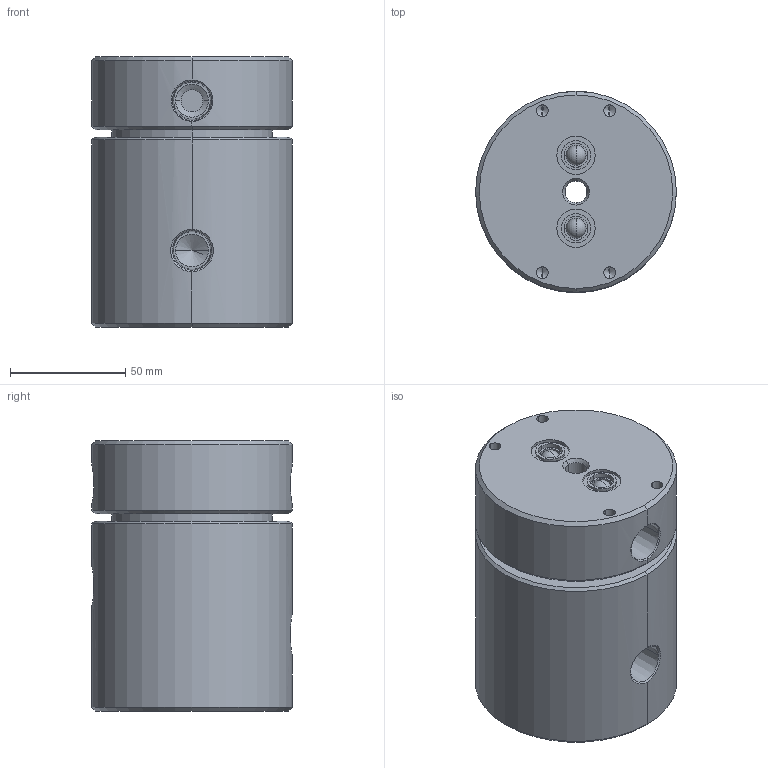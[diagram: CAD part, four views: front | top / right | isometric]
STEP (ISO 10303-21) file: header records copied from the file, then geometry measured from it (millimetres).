
FILE_DESCRIPTION (( 'STEP AP214' ), '1' );
FILE_NAME ('LT(M)-2321.STEP', '2013-01-03T17:20:09', ( '' ), ( '' ), 'SwSTEP 2.0', 'SolidWorks 2011', '' );
FILE_SCHEMA (( 'AUTOMOTIVE_DESIGN' ));
Length unit declared in the file: inch
Products named in the file (1): LT(M)-2321
Bounding box: 87.3 x 87.3 x 117.45 mm (x, y, z)
Volume: 653686.7 mm3; surface area: 60725.9 mm2
Topology: 1 solids, 1 shells, 179 faces, 422 edges, 249 vertices
Faces by surface type: cylinder 82, cone 52, plane 31, bspline 8, sphere 4, torus 2
Entity records: 6961 total; most frequent: CARTESIAN_POINT 2053, DIRECTION 888, ORIENTED_EDGE 776, EDGE_CURVE 388, AXIS2_PLACEMENT_3D 368, VERTEX_POINT 245, EDGE_LOOP 215, CIRCLE 196
